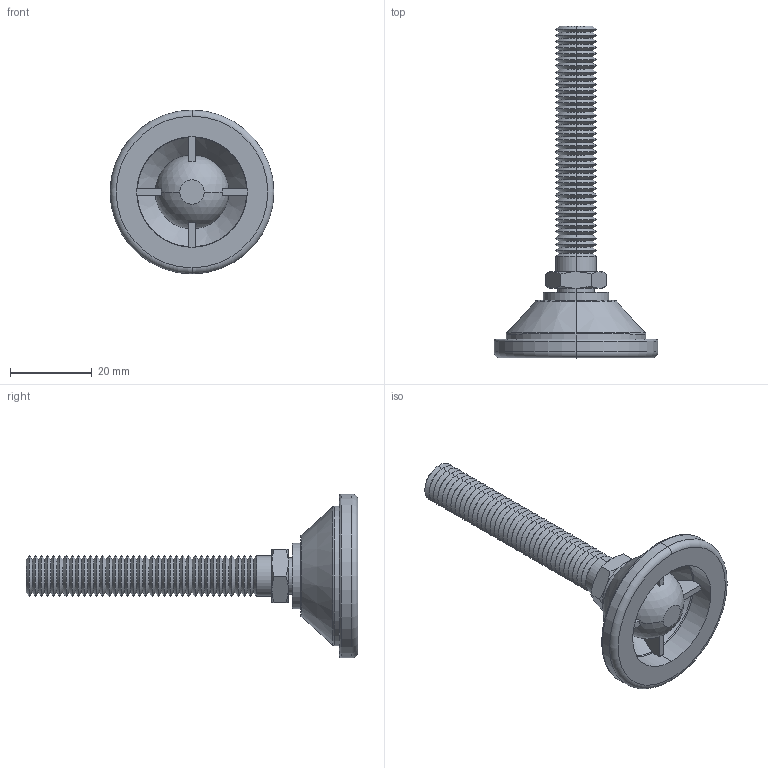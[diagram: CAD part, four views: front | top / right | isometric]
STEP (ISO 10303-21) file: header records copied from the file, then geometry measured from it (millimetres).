
FILE_DESCRIPTION (( 'STEP AP203' ), '1' );
FILE_NAME ('34741.W0102.step', '2016-09-22T07:39:40', ( 'User' ), ( '' ), 'SwSTEP 2.0', 'SolidWorks 2009', '' );
FILE_SCHEMA (( 'CONFIG_CONTROL_DESIGN' ));
Length unit declared in the file: millimetre
Products named in the file (3): 34741.W0102; Part1_34741.W0102; Part2_34741.W0102
Assembly tree (2 placements, depth 2):
  34741.W0102
    Part1_34741.W0102
    Part2_34741.W0102
Bounding box: 40 x 81 x 40 mm (x, y, z)
Volume: 13198 mm3; surface area: 8827.6 mm2
Topology: 2 solids, 2 shells, 228 faces, 492 edges, 270 vertices
Faces by surface type: cone 170, plane 26, cylinder 14, torus 12, sphere 6
Entity records: 6437 total; most frequent: CARTESIAN_POINT 1181, DIRECTION 1162, ORIENTED_EDGE 966, AXIS2_PLACEMENT_3D 486, EDGE_CURVE 483, VERTEX_POINT 265, CIRCLE 253, EDGE_LOOP 234
